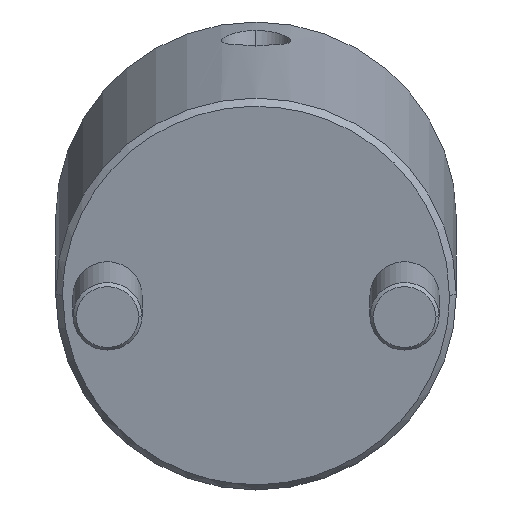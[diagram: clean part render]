
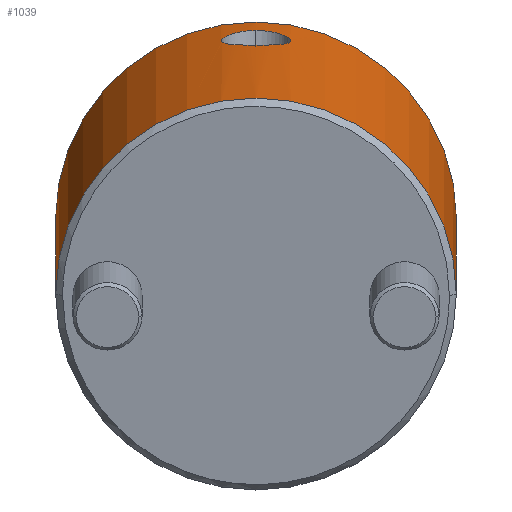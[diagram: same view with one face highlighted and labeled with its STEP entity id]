
A CAD part, front view. The second image highlights one B-rep face of the part: STEP entity #1039.
In plain terms, the highlighted cylindrical face has radius 29 mm (diameter 58 mm), a partial arc.
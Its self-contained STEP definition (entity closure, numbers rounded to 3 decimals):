
#778=CARTESIAN_POINT('Vertex',(0.,29.,1.)) ;
#781=CARTESIAN_POINT('Axis2P3D Location',(0.,0.,1.)) ;
#785=CARTESIAN_POINT('Vertex',(0.,-29.,1.)) ;
#937=CARTESIAN_POINT('Axis2P3D Location',(0.,0.,-2.75)) ;
#942=CARTESIAN_POINT('Line Origine',(0.,29.,-2.75)) ;
#946=CARTESIAN_POINT('Vertex',(0.,29.,54.)) ;
#949=CARTESIAN_POINT('Axis2P3D Location',(0.,0.,54.)) ;
#953=CARTESIAN_POINT('Vertex',(0.,-29.,54.)) ;
#956=CARTESIAN_POINT('Line Origine',(0.,-29.,-2.75)) ;
#968=CARTESIAN_POINT('Control Point',(29.,0.,48.127)) ;
#969=CARTESIAN_POINT('Control Point',(29.,0.424,48.127)) ;
#970=CARTESIAN_POINT('Control Point',(28.992,0.845,48.08)) ;
#971=CARTESIAN_POINT('Control Point',(28.977,1.265,47.984)) ;
#972=CARTESIAN_POINT('Control Point',(28.943,1.873,47.773)) ;
#973=CARTESIAN_POINT('Control Point',(28.898,2.443,47.461)) ;
#974=CARTESIAN_POINT('Control Point',(28.881,2.629,47.346)) ;
#975=CARTESIAN_POINT('Control Point',(28.847,2.99,47.095)) ;
#976=CARTESIAN_POINT('Control Point',(28.81,3.323,46.804)) ;
#977=CARTESIAN_POINT('Control Point',(28.791,3.482,46.649)) ;
#978=CARTESIAN_POINT('Control Point',(28.714,4.093,45.987)) ;
#979=CARTESIAN_POINT('Control Point',(28.642,4.556,45.204)) ;
#980=CARTESIAN_POINT('Control Point',(28.6,4.804,44.567)) ;
#981=CARTESIAN_POINT('Control Point',(28.557,5.048,43.461)) ;
#982=CARTESIAN_POINT('Control Point',(28.566,4.997,42.347)) ;
#983=CARTESIAN_POINT('Control Point',(28.578,4.929,41.907)) ;
#984=CARTESIAN_POINT('Control Point',(28.618,4.701,41.057)) ;
#985=CARTESIAN_POINT('Control Point',(28.681,4.297,40.277)) ;
#986=CARTESIAN_POINT('Control Point',(28.717,4.054,39.914)) ;
#987=CARTESIAN_POINT('Control Point',(28.774,3.632,39.412)) ;
#988=CARTESIAN_POINT('Control Point',(28.831,3.136,38.988)) ;
#989=CARTESIAN_POINT('Control Point',(28.849,2.962,38.856)) ;
#990=CARTESIAN_POINT('Control Point',(28.893,2.511,38.55)) ;
#991=CARTESIAN_POINT('Control Point',(28.932,2.021,38.307)) ;
#992=CARTESIAN_POINT('Control Point',(28.952,1.717,38.186)) ;
#993=CARTESIAN_POINT('Control Point',(28.979,1.192,38.026)) ;
#994=CARTESIAN_POINT('Control Point',(28.994,0.653,37.938)) ;
#995=CARTESIAN_POINT('Control Point',(28.998,0.437,37.915)) ;
#996=CARTESIAN_POINT('Control Point',(29.,0.219,37.903)) ;
#997=CARTESIAN_POINT('Control Point',(29.,0.,37.903)) ;
#998=CARTESIAN_POINT('Vertex',(29.,0.,48.127)) ;
#1000=CARTESIAN_POINT('Vertex',(29.,0.,37.903)) ;
#1004=CARTESIAN_POINT('Control Point',(29.,0.,37.903)) ;
#1005=CARTESIAN_POINT('Control Point',(29.,-0.219,37.903)) ;
#1006=CARTESIAN_POINT('Control Point',(28.998,-0.438,37.915)) ;
#1007=CARTESIAN_POINT('Control Point',(28.994,-0.655,37.939)) ;
#1008=CARTESIAN_POINT('Control Point',(28.979,-1.195,38.027)) ;
#1009=CARTESIAN_POINT('Control Point',(28.952,-1.72,38.187)) ;
#1010=CARTESIAN_POINT('Control Point',(28.932,-2.024,38.308)) ;
#1011=CARTESIAN_POINT('Control Point',(28.893,-2.514,38.551)) ;
#1012=CARTESIAN_POINT('Control Point',(28.849,-2.965,38.858)) ;
#1013=CARTESIAN_POINT('Control Point',(28.83,-3.138,38.99)) ;
#1014=CARTESIAN_POINT('Control Point',(28.774,-3.634,39.414)) ;
#1015=CARTESIAN_POINT('Control Point',(28.717,-4.056,39.917)) ;
#1016=CARTESIAN_POINT('Control Point',(28.681,-4.298,40.28)) ;
#1017=CARTESIAN_POINT('Control Point',(28.617,-4.703,41.06)) ;
#1018=CARTESIAN_POINT('Control Point',(28.578,-4.93,41.91)) ;
#1019=CARTESIAN_POINT('Control Point',(28.566,-4.997,42.351)) ;
#1020=CARTESIAN_POINT('Control Point',(28.557,-5.048,43.464)) ;
#1021=CARTESIAN_POINT('Control Point',(28.6,-4.803,44.57)) ;
#1022=CARTESIAN_POINT('Control Point',(28.643,-4.555,45.207)) ;
#1023=CARTESIAN_POINT('Control Point',(28.714,-4.091,45.99)) ;
#1024=CARTESIAN_POINT('Control Point',(28.791,-3.479,46.652)) ;
#1025=CARTESIAN_POINT('Control Point',(28.81,-3.321,46.806)) ;
#1026=CARTESIAN_POINT('Control Point',(28.847,-2.987,47.096)) ;
#1027=CARTESIAN_POINT('Control Point',(28.882,-2.627,47.348)) ;
#1028=CARTESIAN_POINT('Control Point',(28.898,-2.44,47.463)) ;
#1029=CARTESIAN_POINT('Control Point',(28.943,-1.871,47.774)) ;
#1030=CARTESIAN_POINT('Control Point',(28.977,-1.263,47.985)) ;
#1031=CARTESIAN_POINT('Control Point',(28.992,-0.844,48.08)) ;
#1032=CARTESIAN_POINT('Control Point',(29.,-0.423,48.127)) ;
#1033=CARTESIAN_POINT('Control Point',(29.,0.,48.127)) ;
#782=DIRECTION('Axis2P3D Direction',(0.,0.,1.)) ;
#938=DIRECTION('Axis2P3D Direction',(0.,-0.,1.)) ;
#939=DIRECTION('Axis2P3D XDirection',(0.,-1.,0.)) ;
#943=DIRECTION('Vector Direction',(0.,0.,1.)) ;
#950=DIRECTION('Axis2P3D Direction',(0.,-0.,1.)) ;
#957=DIRECTION('Vector Direction',(0.,0.,1.)) ;
#783=AXIS2_PLACEMENT_3D('Circle Axis2P3D',#781,#782,$) ;
#940=AXIS2_PLACEMENT_3D('Cylinder Axis2P3D',#937,#938,#939) ;
#951=AXIS2_PLACEMENT_3D('Circle Axis2P3D',#949,#950,$) ;
#962=ORIENTED_EDGE('',*,*,#948,.F.) ;
#963=ORIENTED_EDGE('',*,*,#955,.T.) ;
#964=ORIENTED_EDGE('',*,*,#960,.T.) ;
#965=ORIENTED_EDGE('',*,*,#787,.F.) ;
#1036=ORIENTED_EDGE('',*,*,#1002,.T.) ;
#1037=ORIENTED_EDGE('',*,*,#1034,.T.) ;
#1038=FACE_BOUND('',#1035,.T.) ;
#944=VECTOR('Line Direction',#943,1.) ;
#958=VECTOR('Line Direction',#957,1.) ;
#1039=ADVANCED_FACE('MANIFOLD_SOLID_BREP #1144',(#966,#1038),#941,.T.) ;
#967=B_SPLINE_CURVE_WITH_KNOTS('',5,(#968,#969,#970,#971,#972,#973,#974,#975,#976,#977,#978,#979,#980,#981,#982,#983,#984,#985,#986,#987,#988,#989,#990,#991,#992,#993,#994,#995,#996,#997),.UNSPECIFIED.,.F.,.U.,(6,3,3,3,3,3,3,3,3,6),(0.,3.069,4.614,6.171,10.888,13.996,17.094,18.642,20.97,22.519),.UNSPECIFIED.) ;
#1003=B_SPLINE_CURVE_WITH_KNOTS('',5,(#1004,#1005,#1006,#1007,#1008,#1009,#1010,#1011,#1012,#1013,#1014,#1015,#1016,#1017,#1018,#1019,#1020,#1021,#1022,#1023,#1024,#1025,#1026,#1027,#1028,#1029,#1030,#1031,#1032,#1033),.UNSPECIFIED.,.F.,.U.,(6,3,3,3,3,3,3,3,3,6),(0.,1.554,3.881,5.43,8.528,11.636,16.353,17.909,19.454,22.519),.UNSPECIFIED.) ;
#784=CIRCLE('generated circle',#783,29.) ;
#952=CIRCLE('generated circle',#951,29.) ;
#941=CYLINDRICAL_SURFACE('generated cylinder',#940,29.) ;
#787=EDGE_CURVE('',#779,#786,#784,.F.) ;
#948=EDGE_CURVE('',#947,#779,#945,.F.) ;
#955=EDGE_CURVE('',#947,#954,#952,.F.) ;
#960=EDGE_CURVE('',#954,#786,#959,.F.) ;
#1002=EDGE_CURVE('',#999,#1001,#967,.T.) ;
#1034=EDGE_CURVE('',#1001,#999,#1003,.T.) ;
#961=EDGE_LOOP('',(#962,#963,#964,#965)) ;
#1035=EDGE_LOOP('',(#1036,#1037)) ;
#966=FACE_OUTER_BOUND('',#961,.T.) ;
#945=LINE('Line',#942,#944) ;
#959=LINE('Line',#956,#958) ;
#779=VERTEX_POINT('',#778) ;
#786=VERTEX_POINT('',#785) ;
#947=VERTEX_POINT('',#946) ;
#954=VERTEX_POINT('',#953) ;
#999=VERTEX_POINT('',#998) ;
#1001=VERTEX_POINT('',#1000) ;
